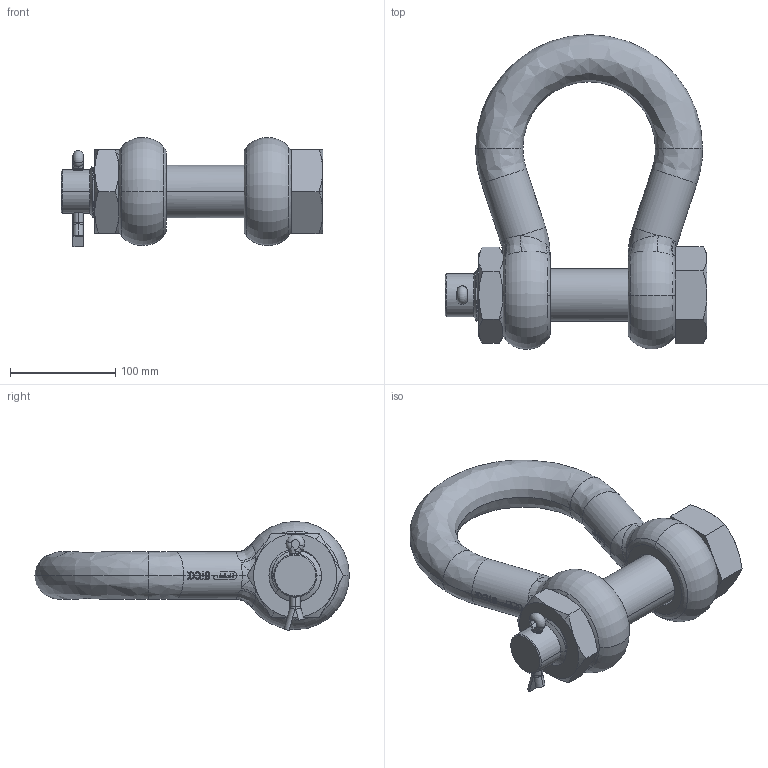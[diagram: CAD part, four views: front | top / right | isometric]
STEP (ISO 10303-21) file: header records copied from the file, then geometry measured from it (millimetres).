
FILE_DESCRIPTION (( 'STEP AP203' ), '1' );
FILE_NAME ('SUGHMB45.STEP', '2009-08-26T14:14:28', ( '.' ), ( '.' ), 'SwSTEP 2.0', 'SolidWorks 2009', '' );
FILE_SCHEMA (( 'CONFIG_CONTROL_DESIGN' ));
Length unit declared in the file: millimetre
Products named in the file (5): 40; 40_1; 40_2; SUGHMB45; 40_3
Assembly tree (4 placements, depth 2):
  SUGHMB45
    40_2
    40_1
    40
    40_3
Bounding box: 249 x 299.5 x 103.87 mm (x, y, z)
Volume: 1846524.2 mm3; surface area: 199704.8 mm2
Topology: 4 solids, 4 shells, 829 faces, 2285 edges, 1486 vertices
Faces by surface type: bspline 337, plane 331, cylinder 123, cone 28, torus 10
Entity records: 39294 total; most frequent: CARTESIAN_POINT 20945, ORIENTED_EDGE 4554, DIRECTION 2399, EDGE_CURVE 2277, VERTEX_POINT 1486, VECTOR 1083, LINE 1083, EDGE_LOOP 867
